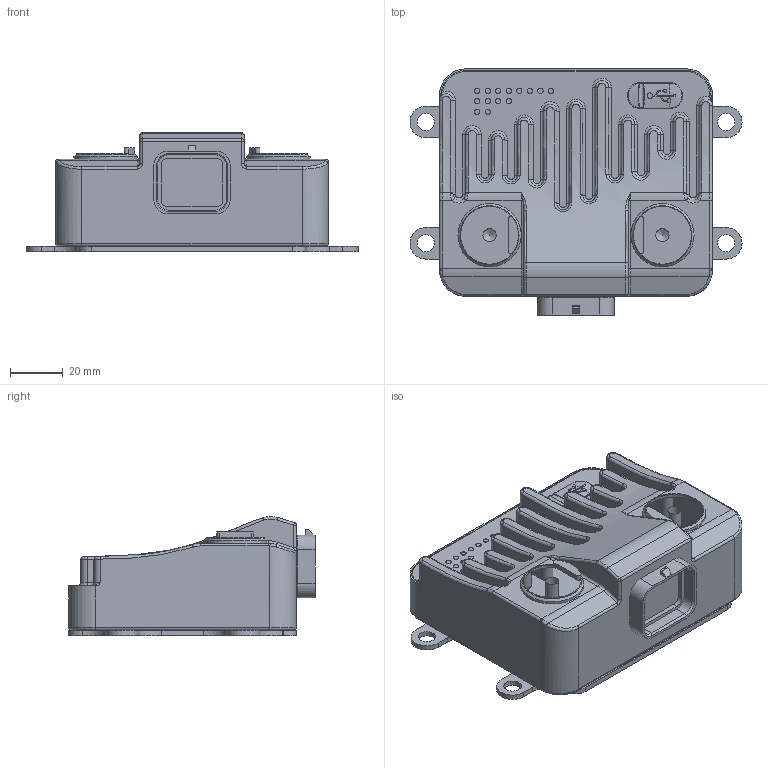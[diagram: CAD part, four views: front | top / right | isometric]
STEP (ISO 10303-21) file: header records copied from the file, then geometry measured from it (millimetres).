
FILE_DESCRIPTION(/* description */ ('STEP AP242','CAx-IF Rec.Pracs.---Representation and Presentation of Product Manufacturing Information (PMI)---4.0---2014-10-13','CAx-IF Rec.Pracs.---3D Tessellated Geometry---0.4---2014-09-14','2;1'),/* implementation_level */ '2;1');
FILE_NAME(/* name */ '645c57046156a80599c12a5d',/* time_stamp */ '2023-05-11T02:46:30Z',/* author */ (''),/* organization */ (''),/* preprocessor_version */ 'ST-DEVELOPER v19.4',/* originating_system */ ' ',/* authorisation */ ' ');
FILE_SCHEMA (('AP242_MANAGED_MODEL_BASED_3D_ENGINEERING_MIM_LF { 1 0 10303 442 1 1 4 }'));
Length unit declared in the file: metre
Products named in the file (5): Razor PDM External Model; Hex socket countersunk head screw M3x0.5 x 6; 135-0010 - PDM MOUNTING PLATE; Razor PDM USB COVER; Razor PDM
Assembly tree (7 placements, depth 2):
  Razor PDM External Model
    Hex socket countersunk head screw M3x0.5 x 6  x4
    135-0010 - PDM MOUNTING PLATE
    Razor PDM USB COVER
    Razor PDM
Bounding box: 126 x 93.45 x 45.19 mm (x, y, z)
Volume: 265758.3 mm3; surface area: 57669.6 mm2
Topology: 7 solids, 13 shells, 716 faces, 1690 edges, 1023 vertices
Faces by surface type: cylinder 277, plane 232, torus 81, bspline 77, cone 37, sphere 12
Full cylindrical faces by diameter (mm): 2 x14, 2.5 x5, 2.7 x1, 3 x8, 3.4 x4, 5 x2, 5.45 x4, 5.54 x4, 6.5 x4, 6.6 x4, 22 x2, 24 x2
Entity records: 19805 total; most frequent: CARTESIAN_POINT 4953, DIRECTION 3172, ORIENTED_EDGE 2884, EDGE_CURVE 1442, AXIS2_PLACEMENT_3D 1307, VERTEX_POINT 928, FACE_BOUND 810, EDGE_LOOP 802
